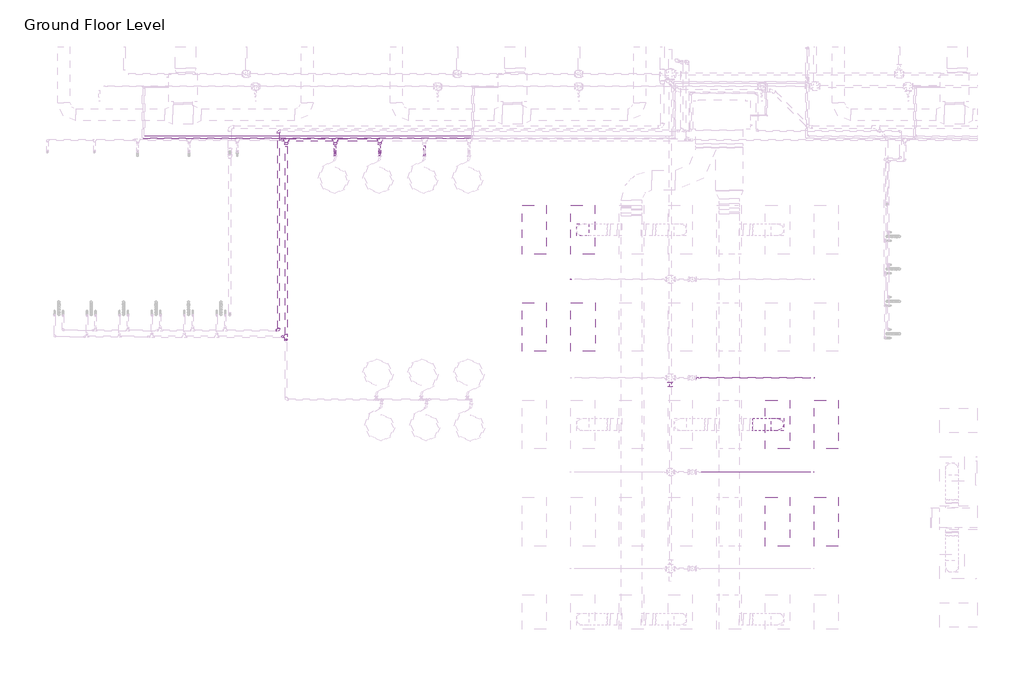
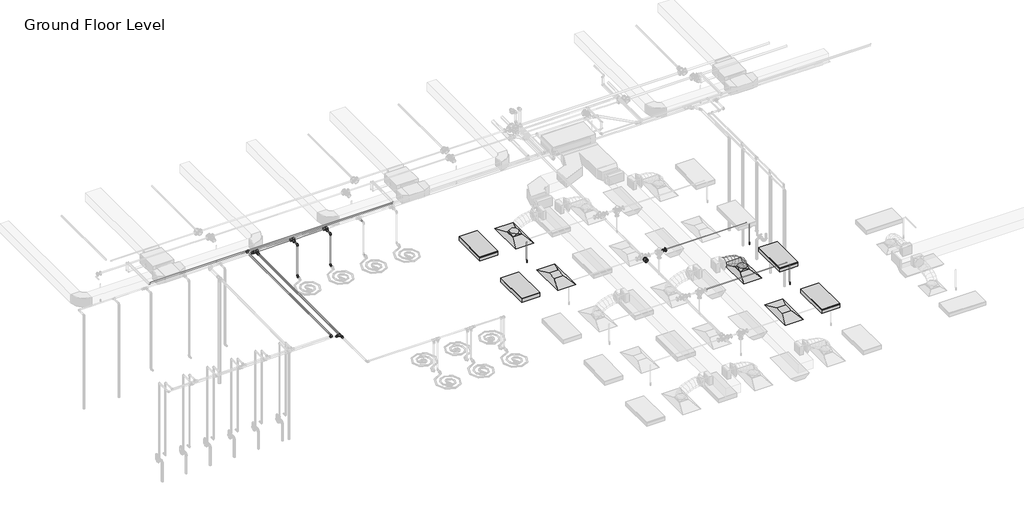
# One storey, part 48 of 75: 19 pipe segments, 18 pipe fittings, 4 air terminals, 4 light fixtures, 3 fire suppression terminals, 2 duct fittings, 1 duct segment.
"""IFC4 building model written with IfcOpenShell, lengths in millimetres."""

from ifc_helpers import new_model, si_unit, point, frame, frame_2d, origin, place, context, project, spatial, circle_curve, ellipse_curve, trimmed, segment, composite_curve, outline, extrude, transform, mapped, element, save
from ifc_brep_helpers import plane_surface, cylinder_surface, advanced_brep
from components import m_return_diffuser_1200x600_1200_x_600_face_300_x_300_d1983ef6, m_rectangular_to_round_transition_angle_45_degree_641efff0, m_sprinkler_dry_pendent_hosted_15_mm_dry_pendent_9bda8e11, m_troffer_light_parabolic_rectangular1_0600x1200mm_4_lamp_86473d4a, m_reducer_flanged_cs_class_150_standard_d42b2106, m_reducer_flanged_cs_class_150_standard_564df86d, standard_517a5a8d, standard_cd25fed3, standard_f1337950, standard_5079833c, standard_92e3b147, standard_bbae78af, standard_69e4ce0e, standard_a995ec02

model = new_model("IFC4")

# Units and contexts
model_context = context("Model", 3, world=origin())
ifc_project = project(units=[si_unit("LENGTHUNIT", "METRE", prefix="MILLI")], contexts=[model_context])

# Site, building, storey
site = spatial("IfcSite", under=ifc_project)
building = spatial("IfcBuilding", under=site)
storey = spatial("IfcBuildingStorey", under=building, Name="Ground Floor Level", Elevation=900.0)

# Air terminals
placement = place(None, origin())
m_return_diffuser_1200x600_1200_x_600_face_300_x_300_shape = m_return_diffuser_1200x600_1200_x_600_face_300_x_300_d1983ef6(model_context)
element("IfcAirTerminal", 1, ObjectType="M_Return Diffuser 1200x600 : 1200 x 600 Face 300 x 300 Connection", at=placement, inside=storey, context=model_context, shape_type="MappedRepresentation", body=[
    mapped(m_return_diffuser_1200x600_1200_x_600_face_300_x_300_shape, transform((-8137.2327605, 8835.2153534, 3650.0), x_axis=(0.0, 1.0, 0.0), y_axis=(-1.0, 0.0, 0.0), z_axis=(0.0, 0.0, 1.0))),
])
element("IfcAirTerminal", 2, ObjectType="M_Return Diffuser 1200x600 : 1200 x 600 Face 300 x 300 Connection", at=placement, inside=storey, context=model_context, shape_type="MappedRepresentation", body=[
    mapped(m_return_diffuser_1200x600_1200_x_600_face_300_x_300_shape, transform((-3337.2327605, 4035.2153534, 3650.0), x_axis=(0.0, 1.0, 0.0), y_axis=(-1.0, 0.0, 0.0), z_axis=(0.0, 0.0, 1.0))),
])
element("IfcAirTerminal", 3, ObjectType="M_Supply Diffuser 1200x600 : 1200 x 600 Face 300 x 300 Connection", at=placement, inside=storey, context=model_context, shape_type="MappedRepresentation", body=[
    mapped(m_return_diffuser_1200x600_1200_x_600_face_300_x_300_shape, transform((-8142.6846929, 11235.2153534, 3650.0), x_axis=(0.0, 1.0, 0.0), y_axis=(-1.0, 0.0, 0.0), z_axis=(0.0, 0.0, 1.0))),
])
element("IfcAirTerminal", 4, ObjectType="M_Supply Diffuser 1200x600 : 1200 x 600 Face 300 x 300 Connection", at=placement, inside=storey, context=model_context, shape_type="MappedRepresentation", body=[
    mapped(m_return_diffuser_1200x600_1200_x_600_face_300_x_300_shape, transform((-3337.2327605, 6435.2153534, 3650.0), x_axis=(0.0, 1.0, 0.0), y_axis=(-1.0, 0.0, 0.0), z_axis=(0.0, 0.0, 1.0))),
])

# Duct fittings
m_rectangular_to_round_transition_angle_45_degree_shape = m_rectangular_to_round_transition_angle_45_degree_641efff0(model_context)
element("IfcDuctFitting", 5, ObjectType="M_Rectangular to Round Transition - Angle : 45 Degree", at=placement, inside=storey, context=model_context, shape_type="MappedRepresentation", body=[
    mapped(m_rectangular_to_round_transition_angle_45_degree_shape, transform((-8142.6846929, 11235.2153534, 3751.6), x_axis=(0.0, 0.0, 1.0), y_axis=(-1.0, 0.0, 0.0), z_axis=(0.0, -1.0, 0.0))),
])
element("IfcDuctFitting", 6, ObjectType="M_Rectangular to Round Transition - Angle : 45 Degree", at=placement, inside=storey, context=model_context, shape_type="MappedRepresentation", body=[
    mapped(m_rectangular_to_round_transition_angle_45_degree_shape, transform((-3337.2327605, 6435.2153534, 3751.6), x_axis=(0.0, 0.0, 1.0), y_axis=(-1.0, 0.0, 0.0), z_axis=(0.0, -1.0, 0.0))),
])

# Duct segment
element("IfcDuctSegment", 7, ObjectType="Flex - Round", at=placement, inside=storey, context=model_context, shape_type="AdvancedBrep", body=[
    advanced_brep(
    [(-3187.2327605, 6435.2153534, 3826.6), (-3337.2327605, 6285.2153534, 3826.6), (-3487.2327605, 6435.2153534, 3826.6), (-3337.2327605, 6585.2153534, 3826.6), (-3187.2327605, 6435.2153534, 3882.1255581), (-3337.2327605, 6285.2153534, 3857.3046173), (-3487.2327605, 6435.2153534, 3832.4836764), (-3337.2327605, 6585.2153534, 3857.3046173), (-3218.4253034, 6435.2153534, 3973.7974983), (-3353.8937102, 6285.2153534, 3906.2695763), (-3489.362117, 6435.2153534, 3838.7416543), (-3353.8937102, 6585.2153534, 3906.2695763), (-3288.1573657, 6435.2153534, 4076.409352), (-3399.7704918, 6285.2153534, 3973.7779999), (-3511.3836179, 6435.2153534, 3871.1466478), (-3399.7704918, 6585.2153534, 3973.7779999), (-3386.082926, 6435.2153534, 4155.7082221), (-3468.7040039, 6285.2153534, 4029.599479), (-3551.3250817, 6435.2153534, 3903.4907359), (-3468.7040039, 6585.2153534, 4029.599479), (-3494.825089, 6435.2153534, 4212.2244369), (-3554.535145, 6285.2153534, 4074.2082221), (-3614.2452011, 6435.2153534, 3936.1920073), (-3554.535145, 6585.2153534, 4074.2082221), (-3609.1145825, 6435.2153534, 4252.3095878), (-3651.104814, 6285.2153534, 4108.0784374), (-3693.0950455, 6435.2153534, 3963.847287), (-3651.104814, 6585.2153534, 4108.0784374), (-3724.8435514, 6435.2153534, 4279.3180942), (-3752.2539093, 6285.2153534, 4131.6843333), (-3779.6642673, 6435.2153534, 3984.0505724), (-3752.2539093, 6585.2153534, 4131.6843333), (-3837.5009499, 6435.2153534, 4294.9499053), (-3851.8233297, 6285.2153534, 4145.500118), (-3866.1457095, 6435.2153534, 3996.0503308), (-3851.8233297, 6585.2153534, 4145.500118), (-3932.3208261, 6435.2153534, 4300.0), (-3936.312488, 6285.2153534, 4150.0), (-3940.3041499, 6435.2153534, 4000.0), (-3936.312488, 6585.2153534, 4150.0), (-3943.6539738, 6435.2153534, 4300.0), (-3943.6539738, 6585.2153534, 4150.0), (-3943.6539738, 6435.2153534, 4000.0), (-3943.6539738, 6285.2153534, 4150.0)],
    [
        (0, 1, circle_curve(frame((-3337.2327605, 6435.2153534, 3826.6), z_axis=(0.0, 0.0, -1.0), x_axis=(1.0, 0.0, 0.0)), 150.0)),
        (1, 2, circle_curve(frame((-3337.2327605, 6435.2153534, 3826.6), z_axis=(0.0, 0.0, -1.0), x_axis=(1.0, 0.0, 0.0)), 150.0)),
        (2, 3, circle_curve(frame((-3337.2327605, 6435.2153534, 3826.6), z_axis=(0.0, 0.0, -1.0), x_axis=(1.0, 0.0, 0.0)), 150.0)),
        (3, 0, circle_curve(frame((-3337.2327605, 6435.2153534, 3826.6), z_axis=(0.0, 0.0, -1.0), x_axis=(1.0, 0.0, 0.0)), 150.0)),
        (0, 4),
        (4, 5, ellipse_curve(frame((-3337.2327605, 6435.2153534, 3857.3046173), z_axis=(0.16325299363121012, 0.0, -0.9865842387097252), x_axis=(-0.9865842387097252, 0.0, -0.16325299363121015)), 152.0397287, 150.0)),
        (5, 1),
        (5, 6, ellipse_curve(frame((-3337.2327605, 6435.2153534, 3857.3046173), z_axis=(0.16325299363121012, 0.0, -0.9865842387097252), x_axis=(-0.9865842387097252, 0.0, -0.16325299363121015)), 152.0397287, 150.0)),
        (6, 2),
        (6, 7, ellipse_curve(frame((-3337.2327605, 6435.2153534, 3857.3046173), z_axis=(0.16325299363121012, 0.0, -0.9865842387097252), x_axis=(-0.9865842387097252, 0.0, -0.16325299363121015)), 152.0397287, 150.0)),
        (7, 3),
        (7, 4, ellipse_curve(frame((-3337.2327605, 6435.2153534, 3857.3046173), z_axis=(0.16325299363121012, 0.0, -0.9865842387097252), x_axis=(-0.9865842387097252, 0.0, -0.16325299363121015)), 152.0397287, 150.0)),
        (4, 8),
        (8, 9, ellipse_curve(frame((-3353.8937102, 6435.2153534, 3906.2695763), z_axis=(0.446123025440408, 0.0, -0.894971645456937), x_axis=(-0.8949716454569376, 0.0, -0.44612302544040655)), 151.3661438, 150.0)),
        (9, 5),
        (9, 10, ellipse_curve(frame((-3353.8937102, 6435.2153534, 3906.2695763), z_axis=(0.446123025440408, 0.0, -0.894971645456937), x_axis=(-0.8949716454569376, 0.0, -0.44612302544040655)), 151.3661438, 150.0)),
        (10, 6),
        (10, 11, ellipse_curve(frame((-3353.8937102, 6435.2153534, 3906.2695763), z_axis=(0.446123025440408, 0.0, -0.894971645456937), x_axis=(-0.8949716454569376, 0.0, -0.44612302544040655)), 151.3661438, 150.0)),
        (11, 7),
        (11, 8, ellipse_curve(frame((-3353.8937102, 6435.2153534, 3906.2695763), z_axis=(0.446123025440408, 0.0, -0.894971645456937), x_axis=(-0.8949716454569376, 0.0, -0.44612302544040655)), 151.3661438, 150.0)),
        (8, 12),
        (12, 13, ellipse_curve(frame((-3399.7704918, 6435.2153534, 3973.7779999), z_axis=(0.6768681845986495, 0.0, -0.7361042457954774), x_axis=(-0.7361042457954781, 0.0, -0.6768681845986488)), 151.626793, 150.0)),
        (13, 9),
        (13, 14, ellipse_curve(frame((-3399.7704918, 6435.2153534, 3973.7779999), z_axis=(0.6768681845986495, 0.0, -0.7361042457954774), x_axis=(-0.7361042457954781, 0.0, -0.6768681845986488)), 151.626793, 150.0)),
        (14, 10),
        (14, 15, ellipse_curve(frame((-3399.7704918, 6435.2153534, 3973.7779999), z_axis=(0.6768681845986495, 0.0, -0.7361042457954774), x_axis=(-0.7361042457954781, 0.0, -0.6768681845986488)), 151.626793, 150.0)),
        (15, 11),
        (15, 12, ellipse_curve(frame((-3399.7704918, 6435.2153534, 3973.7779999), z_axis=(0.6768681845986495, 0.0, -0.7361042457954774), x_axis=(-0.7361042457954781, 0.0, -0.6768681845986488)), 151.626793, 150.0)),
        (12, 16),
        (16, 17, ellipse_curve(frame((-3468.7040039, 6435.2153534, 4029.599479), z_axis=(0.8364668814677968, 0.0, -0.5480174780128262), x_axis=(-0.5480174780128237, 0.0, -0.8364668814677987)), 150.7635818, 150.0)),
        (17, 13),
        (17, 18, ellipse_curve(frame((-3468.7040039, 6435.2153534, 4029.599479), z_axis=(0.8364668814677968, 0.0, -0.5480174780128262), x_axis=(-0.5480174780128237, 0.0, -0.8364668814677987)), 150.7635818, 150.0)),
        (18, 14),
        (18, 19, ellipse_curve(frame((-3468.7040039, 6435.2153534, 4029.599479), z_axis=(0.8364668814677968, 0.0, -0.5480174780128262), x_axis=(-0.5480174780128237, 0.0, -0.8364668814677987)), 150.7635818, 150.0)),
        (19, 15),
        (19, 16, ellipse_curve(frame((-3468.7040039, 6435.2153534, 4029.599479), z_axis=(0.8364668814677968, 0.0, -0.5480174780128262), x_axis=(-0.5480174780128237, 0.0, -0.8364668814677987)), 150.7635818, 150.0)),
        (16, 20),
        (20, 21, ellipse_curve(frame((-3554.535145, 6435.2153534, 4074.2082221), z_axis=(0.9177907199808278, 0.0, -0.3970644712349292), x_axis=(-0.3970644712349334, 0.0, -0.917790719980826)), 150.378743, 150.0)),
        (21, 17),
        (21, 22, ellipse_curve(frame((-3554.535145, 6435.2153534, 4074.2082221), z_axis=(0.9177907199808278, 0.0, -0.3970644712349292), x_axis=(-0.3970644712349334, 0.0, -0.917790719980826)), 150.378743, 150.0)),
        (22, 18),
        (22, 23, ellipse_curve(frame((-3554.535145, 6435.2153534, 4074.2082221), z_axis=(0.9177907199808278, 0.0, -0.3970644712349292), x_axis=(-0.3970644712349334, 0.0, -0.917790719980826)), 150.378743, 150.0)),
        (23, 19),
        (23, 20, ellipse_curve(frame((-3554.535145, 6435.2153534, 4074.2082221), z_axis=(0.9177907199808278, 0.0, -0.3970644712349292), x_axis=(-0.3970644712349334, 0.0, -0.917790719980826)), 150.378743, 150.0)),
        (20, 24),
        (24, 25, ellipse_curve(frame((-3651.104814, 6435.2153534, 4108.0784374), z_axis=(0.9601380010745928, 0.0, -0.2795264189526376), x_axis=(-0.2795264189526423, 0.0, -0.9601380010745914)), 150.2191875, 150.0)),
        (25, 21),
        (25, 26, ellipse_curve(frame((-3651.104814, 6435.2153534, 4108.0784374), z_axis=(0.9601380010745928, 0.0, -0.2795264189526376), x_axis=(-0.2795264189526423, 0.0, -0.9601380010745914)), 150.2191875, 150.0)),
        (26, 22),
        (26, 27, ellipse_curve(frame((-3651.104814, 6435.2153534, 4108.0784374), z_axis=(0.9601380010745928, 0.0, -0.2795264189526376), x_axis=(-0.2795264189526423, 0.0, -0.9601380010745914)), 150.2191875, 150.0)),
        (27, 23),
        (27, 24, ellipse_curve(frame((-3651.104814, 6435.2153534, 4108.0784374), z_axis=(0.9601380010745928, 0.0, -0.2795264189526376), x_axis=(-0.2795264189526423, 0.0, -0.9601380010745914)), 150.2191875, 150.0)),
        (24, 28),
        (28, 29, ellipse_curve(frame((-3752.2539093, 6435.2153534, 4131.6843333), z_axis=(0.9831975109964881, 0.0, -0.18254493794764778), x_axis=(-0.18254493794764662, 0.0, -0.9831975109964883)), 150.1567684, 150.0)),
        (29, 25),
        (29, 30, ellipse_curve(frame((-3752.2539093, 6435.2153534, 4131.6843333), z_axis=(0.9831975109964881, 0.0, -0.18254493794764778), x_axis=(-0.18254493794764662, 0.0, -0.9831975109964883)), 150.1567684, 150.0)),
        (30, 26),
        (30, 31, ellipse_curve(frame((-3752.2539093, 6435.2153534, 4131.6843333), z_axis=(0.9831975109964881, 0.0, -0.18254493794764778), x_axis=(-0.18254493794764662, 0.0, -0.9831975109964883)), 150.1567684, 150.0)),
        (31, 27),
        (31, 28, ellipse_curve(frame((-3752.2539093, 6435.2153534, 4131.6843333), z_axis=(0.9831975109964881, 0.0, -0.18254493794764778), x_axis=(-0.18254493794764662, 0.0, -0.9831975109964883)), 150.1567684, 150.0)),
        (28, 32),
        (32, 33, ellipse_curve(frame((-3851.8233297, 6435.2153534, 4145.500118), z_axis=(0.9954393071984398, 0.0, -0.09539698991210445), x_axis=(-0.09539698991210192, 0.0, -0.99543930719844)), 150.1345046, 150.0)),
        (33, 29),
        (33, 34, ellipse_curve(frame((-3851.8233297, 6435.2153534, 4145.500118), z_axis=(0.9954393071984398, 0.0, -0.09539698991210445), x_axis=(-0.09539698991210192, 0.0, -0.99543930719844)), 150.1345046, 150.0)),
        (34, 30),
        (34, 35, ellipse_curve(frame((-3851.8233297, 6435.2153534, 4145.500118), z_axis=(0.9954393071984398, 0.0, -0.09539698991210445), x_axis=(-0.09539698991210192, 0.0, -0.99543930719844)), 150.1345046, 150.0)),
        (35, 31),
        (35, 32, ellipse_curve(frame((-3851.8233297, 6435.2153534, 4145.500118), z_axis=(0.9954393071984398, 0.0, -0.09539698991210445), x_axis=(-0.09539698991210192, 0.0, -0.99543930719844)), 150.1345046, 150.0)),
        (32, 36),
        (36, 37, ellipse_curve(frame((-3936.312488, 6435.2153534, 4150.0), z_axis=(0.9996461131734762, 0.0, -0.02660166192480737), x_axis=(-0.026601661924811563, 0.0, -0.9996461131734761)), 150.0531018, 150.0)),
        (37, 33),
        (37, 38, ellipse_curve(frame((-3936.312488, 6435.2153534, 4150.0), z_axis=(0.9996461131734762, 0.0, -0.02660166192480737), x_axis=(-0.026601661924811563, 0.0, -0.9996461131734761)), 150.0531018, 150.0)),
        (38, 34),
        (38, 39, ellipse_curve(frame((-3936.312488, 6435.2153534, 4150.0), z_axis=(0.9996461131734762, 0.0, -0.02660166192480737), x_axis=(-0.026601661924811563, 0.0, -0.9996461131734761)), 150.0531018, 150.0)),
        (39, 35),
        (39, 36, ellipse_curve(frame((-3936.312488, 6435.2153534, 4150.0), z_axis=(0.9996461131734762, 0.0, -0.02660166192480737), x_axis=(-0.026601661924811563, 0.0, -0.9996461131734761)), 150.0531018, 150.0)),
        (40, 41, circle_curve(frame((-3943.6539738, 6435.2153534, 4150.0), z_axis=(-1.0, 0.0, 0.0), x_axis=(0.0, 0.0, 1.0)), 150.0)),
        (41, 42, circle_curve(frame((-3943.6539738, 6435.2153534, 4150.0), z_axis=(-1.0, 0.0, 0.0), x_axis=(0.0, 0.0, 1.0)), 150.0)),
        (42, 43, circle_curve(frame((-3943.6539738, 6435.2153534, 4150.0), z_axis=(-1.0, 0.0, 0.0), x_axis=(0.0, 0.0, 1.0)), 150.0)),
        (43, 40, circle_curve(frame((-3943.6539738, 6435.2153534, 4150.0), z_axis=(-1.0, 0.0, 0.0), x_axis=(0.0, 0.0, 1.0)), 150.0)),
        (36, 40),
        (43, 37),
        (42, 38),
        (41, 39),
    ],
    [
        plane_surface(frame((-3337.2327605, 6285.2153534, 3826.6), z_axis=(0.0, 0.0, -1.0), x_axis=(1.0, 0.0, 0.0))),
        cylinder_surface(frame((-3337.2327605, 6435.2153534, 3826.6), z_axis=(0.0, 0.0, -1.0), x_axis=(1.0, 0.0, 0.0)), 150.0),
        cylinder_surface(frame((-3337.2327605, 6435.2153534, 3857.3046173), z_axis=(0.3221256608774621, 0.0, -0.9466969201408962), x_axis=(0.9466969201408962, 0.0, 0.3221256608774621)), 150.0),
        cylinder_surface(frame((-3353.8937102, 6435.2153534, 3906.2695763), z_axis=(0.5620674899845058, 0.0, -0.8270913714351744), x_axis=(0.8270913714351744, 0.0, 0.5620674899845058)), 150.0),
        cylinder_surface(frame((-3399.7704918, 6435.2153534, 3973.7779999), z_axis=(0.7771447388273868, 0.0, -0.6293219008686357), x_axis=(0.6293219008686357, 0.0, 0.7771447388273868)), 150.0),
        cylinder_surface(frame((-3468.7040039, 6435.2153534, 4029.599479), z_axis=(0.8873160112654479, 0.0, -0.4611618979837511), x_axis=(0.4611618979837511, 0.0, 0.8873160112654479)), 150.0),
        cylinder_surface(frame((-3554.535145, 6435.2153534, 4074.2082221), z_axis=(0.9436423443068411, 0.0, -0.3309669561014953), x_axis=(0.3309669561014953, 0.0, 0.9436423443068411)), 150.0),
        cylinder_surface(frame((-3651.104814, 6435.2153534, 4108.0784374), z_axis=(0.973831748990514, 0.0, -0.22727015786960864), x_axis=(0.22727015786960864, 0.0, 0.973831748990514)), 150.0),
        cylinder_surface(frame((-3752.2539093, 6435.2153534, 4131.6843333), z_axis=(0.9905102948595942, 0.0, -0.1374385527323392), x_axis=(0.1374385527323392, 0.0, 0.9905102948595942)), 150.0),
        cylinder_surface(frame((-3851.8233297, 6435.2153534, 4145.500118), z_axis=(0.9985847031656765, 0.0, -0.05318449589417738), x_axis=(0.05318449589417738, 0.0, 0.9985847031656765)), 150.0),
        plane_surface(frame((-3943.6539738, 6435.2153534, 4000.0), z_axis=(-1.0, 0.0, 0.0), x_axis=(0.0, -1.0, 0.0))),
        cylinder_surface(frame((-3936.312488, 6435.2153534, 4150.0), z_axis=(1.0, 0.0, 0.0), x_axis=(0.0, 0.0, 1.0)), 150.0),
    ],
    [
        (0, [[1, 2, 3, 4]]),
        (1, [[-1, 5, 6, 7]]),
        (1, [[-2, -7, 8, 9]]),
        (1, [[-3, -9, 10, 11]]),
        (1, [[-4, -11, 12, -5]]),
        (2, [[-6, 13, 14, 15]]),
        (2, [[-8, -15, 16, 17]]),
        (2, [[-10, -17, 18, 19]]),
        (2, [[-12, -19, 20, -13]]),
        (3, [[-14, 21, 22, 23]]),
        (3, [[-16, -23, 24, 25]]),
        (3, [[-18, -25, 26, 27]]),
        (3, [[-20, -27, 28, -21]]),
        (4, [[-22, 29, 30, 31]]),
        (4, [[-24, -31, 32, 33]]),
        (4, [[-26, -33, 34, 35]]),
        (4, [[-28, -35, 36, -29]]),
        (5, [[-30, 37, 38, 39]]),
        (5, [[-32, -39, 40, 41]]),
        (5, [[-34, -41, 42, 43]]),
        (5, [[-36, -43, 44, -37]]),
        (6, [[-38, 45, 46, 47]]),
        (6, [[-40, -47, 48, 49]]),
        (6, [[-42, -49, 50, 51]]),
        (6, [[-44, -51, 52, -45]]),
        (7, [[-46, 53, 54, 55]]),
        (7, [[-48, -55, 56, 57]]),
        (7, [[-50, -57, 58, 59]]),
        (7, [[-52, -59, 60, -53]]),
        (8, [[-54, 61, 62, 63]]),
        (8, [[-56, -63, 64, 65]]),
        (8, [[-58, -65, 66, 67]]),
        (8, [[-60, -67, 68, -61]]),
        (9, [[-62, 69, 70, 71]]),
        (9, [[-64, -71, 72, 73]]),
        (9, [[-66, -73, 74, 75]]),
        (9, [[-68, -75, 76, -69]]),
        (10, [[77, 78, 79, 80]]),
        (11, [[-70, 81, -80, 82]]),
        (11, [[-72, -82, -79, 83]]),
        (11, [[-74, -83, -78, 84]]),
        (11, [[-76, -84, -77, -81]]),
    ],
),
])

# Fire suppression terminals
m_sprinkler_dry_pendent_hosted_15_mm_dry_pendent_shape = m_sprinkler_dry_pendent_hosted_15_mm_dry_pendent_9bda8e11(model_context)
element("IfcFireSuppressionTerminal", 8, ObjectType="M_Sprinkler - Dry - Pendent - Hosted : 15 mm Dry Pendent", at=placement, inside=storey, context=model_context, shape_type="MappedRepresentation", body=[
    mapped(m_sprinkler_dry_pendent_hosted_15_mm_dry_pendent_shape, transform((-8437.2327605, 10013.008259, 3650.0), x_axis=(1.0, 0.0, 0.0), y_axis=(0.0, -1.0, 0.0), z_axis=(0.0, 0.0, -1.0))),
])
element("IfcFireSuppressionTerminal", 9, ObjectType="M_Sprinkler - Dry - Pendent - Hosted : 15 mm Dry Pendent", at=placement, inside=storey, context=model_context, shape_type="MappedRepresentation", body=[
    mapped(m_sprinkler_dry_pendent_hosted_15_mm_dry_pendent_shape, transform((-2437.2327605, 7582.7040742, 3650.0), x_axis=(1.0, 0.0, 0.0), y_axis=(0.0, -1.0, 0.0), z_axis=(0.0, 0.0, -1.0))),
])
element("IfcFireSuppressionTerminal", 10, ObjectType="M_Sprinkler - Dry - Pendent - Hosted : 15 mm Dry Pendent", at=placement, inside=storey, context=model_context, shape_type="MappedRepresentation", body=[
    mapped(m_sprinkler_dry_pendent_hosted_15_mm_dry_pendent_shape, transform((-2437.2327605, 5261.0372753, 3650.0), x_axis=(1.0, 0.0, 0.0), y_axis=(0.0, -1.0, 0.0), z_axis=(0.0, 0.0, -1.0))),
])

# Light fixtures
m_troffer_light_parabolic_rectangular1_0600x1200mm_4_lamp_shape = m_troffer_light_parabolic_rectangular1_0600x1200mm_4_lamp_86473d4a(model_context)
element("IfcLightFixture", 11, ObjectType="M_Troffer Light - Parabolic Rectangular1 : 0600x1200mm(4 Lamp) - 277V 2", at=placement, inside=storey, context=model_context, shape_type="MappedRepresentation", body=[
    mapped(m_troffer_light_parabolic_rectangular1_0600x1200mm_4_lamp_shape, transform((-9396.6986926, 11253.918855, 3650.0), x_axis=(0.0, 1.0, 0.0), y_axis=(-1.0, 0.0, 0.0), z_axis=(0.0, 0.0, 1.0))),
])
element("IfcLightFixture", 12, ObjectType="M_Troffer Light - Parabolic Rectangular1 : 0600x1200mm(4 Lamp) - 277V 2", at=placement, inside=storey, context=model_context, shape_type="MappedRepresentation", body=[
    mapped(m_troffer_light_parabolic_rectangular1_0600x1200mm_4_lamp_shape, transform((-9396.6986926, 8853.918855, 3650.0), x_axis=(0.0, 1.0, 0.0), y_axis=(-1.0, 0.0, 0.0), z_axis=(0.0, 0.0, 1.0))),
])
element("IfcLightFixture", 13, ObjectType="M_Troffer Light - Parabolic Rectangular1 : 0600x1200mm(4 Lamp) - 277V 2", at=placement, inside=storey, context=model_context, shape_type="MappedRepresentation", body=[
    mapped(m_troffer_light_parabolic_rectangular1_0600x1200mm_4_lamp_shape, transform((-2196.6986926, 6453.918855, 3650.0), x_axis=(0.0, 1.0, 0.0), y_axis=(-1.0, 0.0, 0.0), z_axis=(0.0, 0.0, 1.0))),
])
element("IfcLightFixture", 14, ObjectType="M_Troffer Light - Parabolic Rectangular1 : 0600x1200mm(4 Lamp) - 277V 2", at=placement, inside=storey, context=model_context, shape_type="MappedRepresentation", body=[
    mapped(m_troffer_light_parabolic_rectangular1_0600x1200mm_4_lamp_shape, transform((-2196.6986926, 4053.918855, 3650.0), x_axis=(0.0, 1.0, 0.0), y_axis=(-1.0, 0.0, 0.0), z_axis=(0.0, 0.0, 1.0))),
])

# Pipe fittings
m_reducer_flanged_cs_class_150_standard_shape = m_reducer_flanged_cs_class_150_standard_d42b2106(model_context)
element("IfcPipeFitting", 15, ObjectType="M_Reducer - Flanged - CS - Class 150 : Standard", at=placement, inside=storey, context=model_context, shape_type="MappedRepresentation", body=[
    mapped(m_reducer_flanged_cs_class_150_standard_shape, transform((-5336.5241668, 7582.7040742, 4360.0), x_axis=(1.0, 0.0, 0.0), y_axis=(0.0, 1.0, 0.0), z_axis=(0.0, 0.0, 1.0))),
])
m_reducer_flanged_cs_class_150_standard_2_shape = m_reducer_flanged_cs_class_150_standard_564df86d(model_context)
element("IfcPipeFitting", 16, ObjectType="M_Reducer - Flanged - CS - Class 150 : Standard", at=placement, inside=storey, context=model_context, shape_type="MappedRepresentation", body=[
    mapped(m_reducer_flanged_cs_class_150_standard_2_shape, transform((-5978.130502, 7480.7040742, 4360.0), x_axis=(0.0, -1.0, 0.0), y_axis=(1.0, 0.0, 0.0), z_axis=(0.0, 0.0, 1.0))),
])
standard_shape = standard_517a5a8d(model_context)
element("IfcPipeFitting", 17, ObjectType="M_Elbow - CPVC - Sch 40 : Standard", at=placement, inside=storey, context=model_context, shape_type="MappedRepresentation", body=[
    mapped(standard_shape, transform((-14247.2327605, 13150.8347997, 3200.0), x_axis=(0.0, 1.0, 0.0), y_axis=(0.0, 0.0, 1.0), z_axis=(1.0, 0.0, 0.0))),
])
element("IfcPipeFitting", 18, ObjectType="M_Elbow - CPVC - Sch 40 : Standard", at=placement, inside=storey, context=model_context, shape_type="MappedRepresentation", body=[
    mapped(standard_shape, transform((-14247.2327605, 13150.8347997, 4315.0), x_axis=(0.0, 0.0, 1.0), y_axis=(0.0, 1.0, 0.0), z_axis=(-1.0, 0.0, 0.0))),
])
element("IfcPipeFitting", 19, ObjectType="M_Elbow - CPVC - Sch 40 : Standard", at=placement, inside=storey, context=model_context, shape_type="MappedRepresentation", body=[
    mapped(standard_shape, transform((-13147.2327605, 13150.8347997, 4315.0), x_axis=(0.0, 0.0, 1.0), y_axis=(0.0, 1.0, 0.0), z_axis=(-1.0, 0.0, 0.0))),
])
element("IfcPipeFitting", 20, ObjectType="M_Elbow - CPVC - Sch 40 : Standard", at=placement, inside=storey, context=model_context, shape_type="MappedRepresentation", body=[
    mapped(standard_shape, transform((-13147.2327605, 13150.8347997, 3200.0), x_axis=(0.0, 0.0, -1.0), y_axis=(0.0, -1.0, 0.0), z_axis=(-1.0, 0.0, 0.0))),
])
standard_2_shape = standard_cd25fed3(model_context)
element("IfcPipeFitting", 21, ObjectType="M_Tee - CPVC - Sch 40 : Standard", at=placement, inside=storey, context=model_context, shape_type="MappedRepresentation", body=[
    mapped(standard_2_shape, transform((-14247.2327605, 13449.9865561, 4315.0), x_axis=(-1.0, 0.0, 0.0), y_axis=(0.0, 1.0, 0.0), z_axis=(0.0, 0.0, -1.0))),
])
element("IfcPipeFitting", 22, ObjectType="M_Tee - CPVC - Sch 40 : Standard", at=placement, inside=storey, context=model_context, shape_type="MappedRepresentation", body=[
    mapped(standard_2_shape, transform((-13147.2327605, 13449.9865561, 4315.0), x_axis=(-1.0, 0.0, 0.0), y_axis=(0.0, 1.0, 0.0), z_axis=(0.0, 0.0, -1.0))),
])
element("IfcPipeFitting", 23, ObjectType="M_Tee - CPVC - Sch 40 : Standard", at=placement, inside=storey, context=model_context, shape_type="MappedRepresentation", body=[
    mapped(standard_2_shape, transform((-15455.6408298, 13449.9865561, 4315.0), x_axis=(-1.0, 0.0, 0.0), y_axis=(0.0, 1.0, 0.0), z_axis=(0.0, 0.0, -1.0))),
])
standard_3_shape = standard_f1337950(model_context)
element("IfcPipeFitting", 24, ObjectType="M_Coupling Reducing - CPVC - Sch 40 : Standard", at=placement, inside=storey, context=model_context, shape_type="MappedRepresentation", body=[
    mapped(standard_3_shape, transform((-14247.2327605, 13383.3115561, 4315.0), x_axis=(0.0, -1.0, 0.0), y_axis=(1.0, 0.0, 0.0), z_axis=(0.0, 0.0, 1.0))),
])
element("IfcPipeFitting", 25, ObjectType="M_Coupling Reducing - CPVC - Sch 40 : Standard", at=placement, inside=storey, context=model_context, shape_type="MappedRepresentation", body=[
    mapped(standard_3_shape, transform((-13147.2327605, 13383.3115561, 4315.0), x_axis=(0.0, -1.0, 0.0), y_axis=(1.0, 0.0, 0.0), z_axis=(0.0, 0.0, 1.0))),
])
standard_4_shape = standard_5079833c(model_context)
element("IfcPipeFitting", 26, ObjectType="M_Coupling Reducing - CPVC - Sch 40 : Standard", at=placement, inside=storey, context=model_context, shape_type="MappedRepresentation", body=[
    mapped(standard_4_shape, transform((-15522.3158298, 13449.9865561, 4315.0), x_axis=(-1.0, 0.0, 0.0), y_axis=(0.0, -1.0, 0.0), z_axis=(0.0, 0.0, 1.0))),
])
standard_5_shape = standard_92e3b147(model_context)
element("IfcPipeFitting", 27, ObjectType="M_Coupling Reducing - CPVC - Sch 40 : Standard", at=placement, inside=storey, context=model_context, shape_type="MappedRepresentation", body=[
    mapped(standard_5_shape, transform((-15455.6408298, 13383.3115561, 4315.0), x_axis=(0.0, -1.0, 0.0), y_axis=(1.0, 0.0, 0.0), z_axis=(0.0, 0.0, 1.0))),
])
standard_6_shape = standard_bbae78af(model_context)
element("IfcPipeFitting", 28, ObjectType="M_Tee - CPVC - Sch 40 : Standard", at=placement, inside=storey, context=model_context, shape_type="MappedRepresentation", body=[
    mapped(standard_6_shape, transform((-15455.6408298, 8599.9071734, 4315.0), x_axis=(0.0, 1.0, 0.0), y_axis=(1.0, 0.0, 0.0), z_axis=(0.0, 0.0, -1.0))),
])
standard_7_shape = standard_69e4ce0e(model_context)
element("IfcPipeFitting", 29, ObjectType="M_Elbow - CPVC - Sch 40 : Standard", at=placement, inside=storey, context=model_context, shape_type="MappedRepresentation", body=[
    mapped(standard_7_shape, transform((-15642.8173674, 8755.2153534, 4250.0), x_axis=(1.0, 0.0, 0.0), y_axis=(0.0, 1.0, 0.0), z_axis=(0.0, 0.0, 1.0))),
])
element("IfcPipeFitting", 30, ObjectType="M_Elbow - CPVC - Sch 40 : Standard", at=placement, inside=storey, context=model_context, shape_type="MappedRepresentation", body=[
    mapped(standard_7_shape, transform((-15642.8173674, 13675.2153534, 4250.0), x_axis=(-1.0, 0.0, 0.0), y_axis=(0.0, -1.0, 0.0), z_axis=(0.0, 0.0, 1.0))),
])
standard_8_shape = standard_a995ec02(model_context)
element("IfcPipeFitting", 31, ObjectType="M_Coupling Reducing - CPVC - Sch 40 : Standard", at=placement, inside=storey, context=model_context, shape_type="MappedRepresentation", body=[
    mapped(standard_8_shape, transform((-15455.6408298, 8541.1569734, 4315.0), x_axis=(0.0, -1.0, 0.0), y_axis=(1.0, 0.0, 0.0), z_axis=(0.0, 0.0, 1.0))),
])
element("IfcPipeFitting", 32, ObjectType="M_Coupling Reducing - CPVC - Sch 40 : Standard", at=placement, inside=storey, context=model_context, shape_type="MappedRepresentation", body=[
    mapped(standard_8_shape, transform((-15514.3910298, 8599.9071734, 4315.0), x_axis=(-1.0, 0.0, 0.0), y_axis=(0.0, -1.0, 0.0), z_axis=(0.0, 0.0, 1.0))),
])

# Pipe segments
element("IfcPipeSegment", 33, ObjectType="CPVC", at=placement, inside=storey, context=model_context, shape_type="SweptSolid", body=[
    extrude(outline(composite_curve([segment(trimmed(circle_curve(frame_2d((3200.0, -14247.2327605)), 16.7005), [point((3200.0, -14230.5322605))], [point((3216.7005, -14247.2327605))], False, "CARTESIAN"), True, "CONTINUOUS"), segment(trimmed(circle_curve(frame_2d((3200.0, -14247.2327605)), 16.7005), [point((3216.7005, -14247.2327605))], [point((3200.0, -14263.9332605))], False, "CARTESIAN"), True, "CONTINUOUS"), segment(trimmed(circle_curve(frame_2d((3200.0, -14247.2327605)), 16.7005), [point((3200.0, -14263.9332605))], [point((3183.2995, -14247.2327605))], False, "CARTESIAN"), True, "CONTINUOUS"), segment(trimmed(circle_curve(frame_2d((3200.0, -14247.2327605)), 16.7005), [point((3183.2995, -14247.2327605))], [point((3200.0, -14230.5322605))], False, "CARTESIAN"), True, "CONTINUOUS")], self_intersect=False)), frame((0.0, 13056.8347997, 0.0), z_axis=(0.0, 1.0, 0.0), x_axis=(0.0, 0.0, 1.0)), (0.0, 0.0, 1.0), 50.73745),
])
element("IfcPipeSegment", 34, ObjectType="CPVC", at=placement, inside=storey, context=model_context, shape_type="SweptSolid", body=[
    extrude(outline(composite_curve([segment(trimmed(circle_curve(frame_2d((4315.0, -14247.2327605)), 16.7005), [point((4315.0, -14230.5322605))], [point((4331.7005, -14247.2327605))], False, "CARTESIAN"), True, "CONTINUOUS"), segment(trimmed(circle_curve(frame_2d((4315.0, -14247.2327605)), 16.7005), [point((4331.7005, -14247.2327605))], [point((4315.0, -14263.9332605))], False, "CARTESIAN"), True, "CONTINUOUS"), segment(trimmed(circle_curve(frame_2d((4315.0, -14247.2327605)), 16.7005), [point((4315.0, -14263.9332605))], [point((4298.2995, -14247.2327605))], False, "CARTESIAN"), True, "CONTINUOUS"), segment(trimmed(circle_curve(frame_2d((4315.0, -14247.2327605)), 16.7005), [point((4298.2995, -14247.2327605))], [point((4315.0, -14230.5322605))], False, "CARTESIAN"), True, "CONTINUOUS")], self_intersect=False)), frame((0.0, 13194.0973497, 0.0), z_axis=(0.0, 1.0, 0.0), x_axis=(0.0, 0.0, 1.0)), (0.0, 0.0, 1.0), 109.4153315),
])
element("IfcPipeSegment", 35, ObjectType="CPVC", at=placement, inside=storey, context=model_context, shape_type="SweptSolid", body=[
    extrude(outline(composite_curve([segment(trimmed(circle_curve(frame_2d((-14247.2327605, 13150.8347997)), 16.7005), [point((-14263.9332605, 13150.8347997))], [point((-14247.2327605, 13167.5352997))], False, "CARTESIAN"), True, "CONTINUOUS"), segment(trimmed(circle_curve(frame_2d((-14247.2327605, 13150.8347997)), 16.7005), [point((-14247.2327605, 13167.5352997))], [point((-14230.5322605, 13150.8347997))], False, "CARTESIAN"), True, "CONTINUOUS"), segment(trimmed(circle_curve(frame_2d((-14247.2327605, 13150.8347997)), 16.7005), [point((-14230.5322605, 13150.8347997))], [point((-14247.2327605, 13134.1342997))], False, "CARTESIAN"), True, "CONTINUOUS"), segment(trimmed(circle_curve(frame_2d((-14247.2327605, 13150.8347997)), 16.7005), [point((-14247.2327605, 13134.1342997))], [point((-14263.9332605, 13150.8347997))], False, "CARTESIAN"), True, "CONTINUOUS")], self_intersect=False)), frame((0.0, 0.0, 3243.26255), z_axis=(0.0, 0.0, 1.0), x_axis=(1.0, 0.0, 0.0)), (0.0, 0.0, 1.0), 1028.4749),
])
element("IfcPipeSegment", 36, ObjectType="CPVC", at=placement, inside=storey, context=model_context, shape_type="SweptSolid", body=[
    extrude(outline(composite_curve([segment(trimmed(circle_curve(frame_2d((3200.0, -13147.2327605)), 16.7005), [point((3200.0, -13163.9332605))], [point((3183.2995, -13147.2327605))], False, "CARTESIAN"), True, "CONTINUOUS"), segment(trimmed(circle_curve(frame_2d((3200.0, -13147.2327605)), 16.7005), [point((3183.2995, -13147.2327605))], [point((3200.0, -13130.5322605))], False, "CARTESIAN"), True, "CONTINUOUS"), segment(trimmed(circle_curve(frame_2d((3200.0, -13147.2327605)), 16.7005), [point((3200.0, -13130.5322605))], [point((3216.7005, -13147.2327605))], False, "CARTESIAN"), True, "CONTINUOUS"), segment(trimmed(circle_curve(frame_2d((3200.0, -13147.2327605)), 16.7005), [point((3216.7005, -13147.2327605))], [point((3200.0, -13163.9332605))], False, "CARTESIAN"), True, "CONTINUOUS")], self_intersect=False)), frame((0.0, 13056.8347997, 0.0), z_axis=(0.0, 1.0, 0.0), x_axis=(0.0, 0.0, 1.0)), (0.0, 0.0, 1.0), 50.73745),
])
element("IfcPipeSegment", 37, ObjectType="CPVC", at=placement, inside=storey, context=model_context, shape_type="SweptSolid", body=[
    extrude(outline(composite_curve([segment(trimmed(circle_curve(frame_2d((4315.0, -13147.2327605)), 16.7005), [point((4315.0, -13130.5322605))], [point((4331.7005, -13147.2327605))], False, "CARTESIAN"), True, "CONTINUOUS"), segment(trimmed(circle_curve(frame_2d((4315.0, -13147.2327605)), 16.7005), [point((4331.7005, -13147.2327605))], [point((4315.0, -13163.9332605))], False, "CARTESIAN"), True, "CONTINUOUS"), segment(trimmed(circle_curve(frame_2d((4315.0, -13147.2327605)), 16.7005), [point((4315.0, -13163.9332605))], [point((4298.2995, -13147.2327605))], False, "CARTESIAN"), True, "CONTINUOUS"), segment(trimmed(circle_curve(frame_2d((4315.0, -13147.2327605)), 16.7005), [point((4298.2995, -13147.2327605))], [point((4315.0, -13130.5322605))], False, "CARTESIAN"), True, "CONTINUOUS")], self_intersect=False)), frame((0.0, 13194.0973497, 0.0), z_axis=(0.0, 1.0, 0.0), x_axis=(0.0, 0.0, 1.0)), (0.0, 0.0, 1.0), 109.4153315),
])
element("IfcPipeSegment", 38, ObjectType="CPVC", at=placement, inside=storey, context=model_context, shape_type="SweptSolid", body=[
    extrude(outline(composite_curve([segment(trimmed(circle_curve(frame_2d((-13147.2327605, 13150.8347997)), 16.7005), [point((-13163.9332605, 13150.8347997))], [point((-13147.2327605, 13167.5352997))], False, "CARTESIAN"), True, "CONTINUOUS"), segment(trimmed(circle_curve(frame_2d((-13147.2327605, 13150.8347997)), 16.7005), [point((-13147.2327605, 13167.5352997))], [point((-13130.5322605, 13150.8347997))], False, "CARTESIAN"), True, "CONTINUOUS"), segment(trimmed(circle_curve(frame_2d((-13147.2327605, 13150.8347997)), 16.7005), [point((-13130.5322605, 13150.8347997))], [point((-13147.2327605, 13134.1342997))], False, "CARTESIAN"), True, "CONTINUOUS"), segment(trimmed(circle_curve(frame_2d((-13147.2327605, 13150.8347997)), 16.7005), [point((-13147.2327605, 13134.1342997))], [point((-13163.9332605, 13150.8347997))], False, "CARTESIAN"), True, "CONTINUOUS")], self_intersect=False)), frame((0.0, 0.0, 3243.26255), z_axis=(0.0, 0.0, 1.0), x_axis=(1.0, 0.0, 0.0)), (0.0, 0.0, 1.0), 1028.4749),
])
element("IfcPipeSegment", 39, ObjectType="CPVC", at=placement, inside=storey, context=model_context, shape_type="SweptSolid", body=[
    extrude(outline(composite_curve([segment(trimmed(circle_curve(frame_2d((3200.0, -12047.2327605)), 16.7005), [point((3200.0, -12063.9332605))], [point((3183.2995, -12047.2327605))], False, "CARTESIAN"), True, "CONTINUOUS"), segment(trimmed(circle_curve(frame_2d((3200.0, -12047.2327605)), 16.7005), [point((3183.2995, -12047.2327605))], [point((3200.0, -12030.5322605))], False, "CARTESIAN"), True, "CONTINUOUS"), segment(trimmed(circle_curve(frame_2d((3200.0, -12047.2327605)), 16.7005), [point((3200.0, -12030.5322605))], [point((3216.7005, -12047.2327605))], False, "CARTESIAN"), True, "CONTINUOUS"), segment(trimmed(circle_curve(frame_2d((3200.0, -12047.2327605)), 16.7005), [point((3216.7005, -12047.2327605))], [point((3200.0, -12063.9332605))], False, "CARTESIAN"), True, "CONTINUOUS")], self_intersect=False)), frame((0.0, 13056.8347997, 0.0), z_axis=(0.0, 1.0, 0.0), x_axis=(0.0, 0.0, 1.0)), (0.0, 0.0, 1.0), 50.73745),
])
element("IfcPipeSegment", 40, ObjectType="CPVC", at=placement, inside=storey, context=model_context, shape_type="SweptSolid", body=[
    extrude(outline(composite_curve([segment(trimmed(circle_curve(frame_2d((4315.0, -12047.2327605)), 16.7005), [point((4315.0, -12030.5322605))], [point((4331.7005, -12047.2327605))], False, "CARTESIAN"), True, "CONTINUOUS"), segment(trimmed(circle_curve(frame_2d((4315.0, -12047.2327605)), 16.7005), [point((4331.7005, -12047.2327605))], [point((4315.0, -12063.9332605))], False, "CARTESIAN"), True, "CONTINUOUS"), segment(trimmed(circle_curve(frame_2d((4315.0, -12047.2327605)), 16.7005), [point((4315.0, -12063.9332605))], [point((4298.2995, -12047.2327605))], False, "CARTESIAN"), True, "CONTINUOUS"), segment(trimmed(circle_curve(frame_2d((4315.0, -12047.2327605)), 16.7005), [point((4298.2995, -12047.2327605))], [point((4315.0, -12030.5322605))], False, "CARTESIAN"), True, "CONTINUOUS")], self_intersect=False)), frame((0.0, 13194.0973497, 0.0), z_axis=(0.0, 1.0, 0.0), x_axis=(0.0, 0.0, 1.0)), (0.0, 0.0, 1.0), 109.4153315),
])
element("IfcPipeSegment", 41, ObjectType="CPVC", at=placement, inside=storey, context=model_context, shape_type="SweptSolid", body=[
    extrude(outline(composite_curve([segment(trimmed(circle_curve(frame_2d((13449.9865561, 4315.0)), 30.1625), [point((13419.8240561, 4315.0))], [point((13449.9865561, 4345.1625))], False, "CARTESIAN"), True, "CONTINUOUS"), segment(trimmed(circle_curve(frame_2d((13449.9865561, 4315.0)), 30.1625), [point((13449.9865561, 4345.1625))], [point((13480.1490561, 4315.0))], False, "CARTESIAN"), True, "CONTINUOUS"), segment(trimmed(circle_curve(frame_2d((13449.9865561, 4315.0)), 30.1625), [point((13480.1490561, 4315.0))], [point((13449.9865561, 4284.8375))], False, "CARTESIAN"), True, "CONTINUOUS"), segment(trimmed(circle_curve(frame_2d((13449.9865561, 4315.0)), 30.1625), [point((13449.9865561, 4284.8375))], [point((13419.8240561, 4315.0))], False, "CARTESIAN"), True, "CONTINUOUS")], self_intersect=False)), frame((-15388.9658298, 0.0, 0.0), z_axis=(1.0, 0.0, 0.0), x_axis=(0.0, 1.0, 0.0)), (0.0, 0.0, 1.0), 1075.0580693),
])
element("IfcPipeSegment", 42, ObjectType="CPVC", at=placement, inside=storey, context=model_context, shape_type="SweptSolid", body=[
    extrude(outline(composite_curve([segment(trimmed(circle_curve(frame_2d((13449.9865561, 4315.0)), 30.1625), [point((13419.8240561, 4315.0))], [point((13449.9865561, 4345.1625))], False, "CARTESIAN"), True, "CONTINUOUS"), segment(trimmed(circle_curve(frame_2d((13449.9865561, 4315.0)), 30.1625), [point((13449.9865561, 4345.1625))], [point((13480.1490561, 4315.0))], False, "CARTESIAN"), True, "CONTINUOUS"), segment(trimmed(circle_curve(frame_2d((13449.9865561, 4315.0)), 30.1625), [point((13480.1490561, 4315.0))], [point((13449.9865561, 4284.8375))], False, "CARTESIAN"), True, "CONTINUOUS"), segment(trimmed(circle_curve(frame_2d((13449.9865561, 4315.0)), 30.1625), [point((13449.9865561, 4284.8375))], [point((13419.8240561, 4315.0))], False, "CARTESIAN"), True, "CONTINUOUS")], self_intersect=False)), frame((-14180.5577605, 0.0, 0.0), z_axis=(1.0, 0.0, 0.0), x_axis=(0.0, 1.0, 0.0)), (0.0, 0.0, 1.0), 966.65),
])
element("IfcPipeSegment", 43, ObjectType="CPVC", at=placement, inside=storey, context=model_context, shape_type="SweptSolid", body=[
    extrude(outline(composite_curve([segment(trimmed(circle_curve(frame_2d((4315.0, -15455.6408298)), 24.13), [point((4315.0, -15479.7708298))], [point((4290.87, -15455.6408298))], False, "CARTESIAN"), True, "CONTINUOUS"), segment(trimmed(circle_curve(frame_2d((4315.0, -15455.6408298)), 24.13), [point((4290.87, -15455.6408298))], [point((4315.0, -15431.5108298))], False, "CARTESIAN"), True, "CONTINUOUS"), segment(trimmed(circle_curve(frame_2d((4315.0, -15455.6408298)), 24.13), [point((4315.0, -15431.5108298))], [point((4339.13, -15455.6408298))], False, "CARTESIAN"), True, "CONTINUOUS"), segment(trimmed(circle_curve(frame_2d((4315.0, -15455.6408298)), 24.13), [point((4339.13, -15455.6408298))], [point((4315.0, -15479.7708298))], False, "CARTESIAN"), True, "CONTINUOUS")], self_intersect=False)), frame((0.0, 8658.6573734, 0.0), z_axis=(0.0, 1.0, 0.0), x_axis=(0.0, 0.0, 1.0)), (0.0, 0.0, 1.0), 4633.2354328),
])
element("IfcPipeSegment", 44, ObjectType="CPVC", at=placement, inside=storey, context=model_context, shape_type="SweptSolid", body=[
    extrude(outline(composite_curve([segment(trimmed(circle_curve(frame_2d((4250.0, -15642.8173674)), 21.082), [point((4250.0, -15621.7353674))], [point((4271.082, -15642.8173674))], False, "CARTESIAN"), True, "CONTINUOUS"), segment(trimmed(circle_curve(frame_2d((4250.0, -15642.8173674)), 21.082), [point((4271.082, -15642.8173674))], [point((4250.0, -15663.8993674))], False, "CARTESIAN"), True, "CONTINUOUS"), segment(trimmed(circle_curve(frame_2d((4250.0, -15642.8173674)), 21.082), [point((4250.0, -15663.8993674))], [point((4228.918, -15642.8173674))], False, "CARTESIAN"), True, "CONTINUOUS"), segment(trimmed(circle_curve(frame_2d((4250.0, -15642.8173674)), 21.082), [point((4228.918, -15642.8173674))], [point((4250.0, -15621.7353674))], False, "CARTESIAN"), True, "CONTINUOUS")], self_intersect=False)), frame((0.0, 8813.1591034, 0.0), z_axis=(0.0, 1.0, 0.0), x_axis=(0.0, 0.0, 1.0)), (0.0, 0.0, 1.0), 4804.1125),
])
element("IfcPipeSegment", 45, ObjectType="Copper", at=placement, inside=storey, context=model_context, shape_type="SweptSolid", body=[
    extrude(outline(composite_curve([segment(trimmed(circle_curve(frame_2d((13545.2153534, 4380.0)), 6.5), [point((13538.7153534, 4380.0))], [point((13545.2153534, 4386.5))], False, "CARTESIAN"), True, "CONTINUOUS"), segment(trimmed(circle_curve(frame_2d((13545.2153534, 4380.0)), 6.5), [point((13545.2153534, 4386.5))], [point((13551.7153534, 4380.0))], False, "CARTESIAN"), True, "CONTINUOUS"), segment(trimmed(circle_curve(frame_2d((13545.2153534, 4380.0)), 6.5), [point((13551.7153534, 4380.0))], [point((13545.2153534, 4373.5))], False, "CARTESIAN"), True, "CONTINUOUS"), segment(trimmed(circle_curve(frame_2d((13545.2153534, 4380.0)), 6.5), [point((13545.2153534, 4373.5))], [point((13538.7153534, 4380.0))], False, "CARTESIAN"), True, "CONTINUOUS")], self_intersect=False)), frame((-18931.0452605, 0.0, 0.0), z_axis=(1.0, 0.0, 0.0), x_axis=(0.0, 1.0, 0.0)), (0.0, 0.0, 1.0), 8090.075),
])
element("IfcPipeSegment", 46, ObjectType="Copper", at=placement, inside=storey, context=model_context, shape_type="SweptSolid", body=[
    extrude(outline(composite_curve([segment(trimmed(circle_curve(frame_2d((13494.0185138, 4365.0)), 3.35), [point((13490.6685138, 4365.0))], [point((13494.0185138, 4368.35))], False, "CARTESIAN"), True, "CONTINUOUS"), segment(trimmed(circle_curve(frame_2d((13494.0185138, 4365.0)), 3.35), [point((13494.0185138, 4368.35))], [point((13497.3685138, 4365.0))], False, "CARTESIAN"), True, "CONTINUOUS"), segment(trimmed(circle_curve(frame_2d((13494.0185138, 4365.0)), 3.35), [point((13497.3685138, 4365.0))], [point((13494.0185138, 4361.65))], False, "CARTESIAN"), True, "CONTINUOUS"), segment(trimmed(circle_curve(frame_2d((13494.0185138, 4365.0)), 3.35), [point((13494.0185138, 4361.65))], [point((13490.6685138, 4365.0))], False, "CARTESIAN"), True, "CONTINUOUS")], self_intersect=False)), frame((-18983.8817947, 0.0, 0.0), z_axis=(1.0, 0.0, 0.0), x_axis=(0.0, 1.0, 0.0)), (0.0, 0.0, 1.0), 8096.375),
])
element("IfcPipeSegment", 47, ObjectType="Steel flanged", at=placement, inside=storey, context=model_context, shape_type="SweptSolid", body=[
    extrude(outline(composite_curve([segment(trimmed(circle_curve(frame_2d((-8437.2327605, 10013.008259)), 10.668), [point((-8447.9007605, 10013.008259))], [point((-8437.2327605, 10023.676259))], False, "CARTESIAN"), True, "CONTINUOUS"), segment(trimmed(circle_curve(frame_2d((-8437.2327605, 10013.008259)), 10.668), [point((-8437.2327605, 10023.676259))], [point((-8426.5647605, 10013.008259))], False, "CARTESIAN"), True, "CONTINUOUS"), segment(trimmed(circle_curve(frame_2d((-8437.2327605, 10013.008259)), 10.668), [point((-8426.5647605, 10013.008259))], [point((-8437.2327605, 10002.340259))], False, "CARTESIAN"), True, "CONTINUOUS"), segment(trimmed(circle_curve(frame_2d((-8437.2327605, 10013.008259)), 10.668), [point((-8437.2327605, 10002.340259))], [point((-8447.9007605, 10013.008259))], False, "CARTESIAN"), True, "CONTINUOUS")], self_intersect=False)), frame((0.0, 0.0, 3650.0), z_axis=(0.0, 0.0, 1.0), x_axis=(1.0, 0.0, 0.0)), (0.0, 0.0, 1.0), 616.9914062),
])
element("IfcPipeSegment", 48, ObjectType="Steel flanged", at=placement, inside=storey, context=model_context, shape_type="SweptSolid", body=[
    extrude(outline(composite_curve([segment(trimmed(circle_curve(frame_2d((-2437.2327605, 5261.0372753)), 10.668), [point((-2447.9007605, 5261.0372753))], [point((-2437.2327605, 5271.7052753))], False, "CARTESIAN"), True, "CONTINUOUS"), segment(trimmed(circle_curve(frame_2d((-2437.2327605, 5261.0372753)), 10.668), [point((-2437.2327605, 5271.7052753))], [point((-2426.5647605, 5261.0372753))], False, "CARTESIAN"), True, "CONTINUOUS"), segment(trimmed(circle_curve(frame_2d((-2437.2327605, 5261.0372753)), 10.668), [point((-2426.5647605, 5261.0372753))], [point((-2437.2327605, 5250.3692753))], False, "CARTESIAN"), True, "CONTINUOUS"), segment(trimmed(circle_curve(frame_2d((-2437.2327605, 5261.0372753)), 10.668), [point((-2437.2327605, 5250.3692753))], [point((-2447.9007605, 5261.0372753))], False, "CARTESIAN"), True, "CONTINUOUS")], self_intersect=False)), frame((0.0, 0.0, 3650.0), z_axis=(0.0, 0.0, 1.0), x_axis=(1.0, 0.0, 0.0)), (0.0, 0.0, 1.0), 616.9914063),
])
element("IfcPipeSegment", 49, ObjectType="Steel flanged", at=placement, inside=storey, context=model_context, shape_type="SweptSolid", body=[
    extrude(outline(composite_curve([segment(trimmed(circle_curve(frame_2d((-2437.2327605, 7582.7040742)), 10.668), [point((-2447.9007605, 7582.7040742))], [point((-2437.2327605, 7593.3720742))], False, "CARTESIAN"), True, "CONTINUOUS"), segment(trimmed(circle_curve(frame_2d((-2437.2327605, 7582.7040742)), 10.668), [point((-2437.2327605, 7593.3720742))], [point((-2426.5647605, 7582.7040742))], False, "CARTESIAN"), True, "CONTINUOUS"), segment(trimmed(circle_curve(frame_2d((-2437.2327605, 7582.7040742)), 10.668), [point((-2426.5647605, 7582.7040742))], [point((-2437.2327605, 7572.0360742))], False, "CARTESIAN"), True, "CONTINUOUS"), segment(trimmed(circle_curve(frame_2d((-2437.2327605, 7582.7040742)), 10.668), [point((-2437.2327605, 7572.0360742))], [point((-2447.9007605, 7582.7040742))], False, "CARTESIAN"), True, "CONTINUOUS")], self_intersect=False)), frame((0.0, 0.0, 3650.0), z_axis=(0.0, 0.0, 1.0), x_axis=(1.0, 0.0, 0.0)), (0.0, 0.0, 1.0), 616.9914063),
])
element("IfcPipeSegment", 50, ObjectType="Steel flanged", at=placement, inside=storey, context=model_context, shape_type="SweptSolid", body=[
    extrude(outline(composite_curve([segment(trimmed(circle_curve(frame_2d((5261.0372753, 4360.0)), 10.668), [point((5271.7052753, 4360.0))], [point((5261.0372753, 4349.332))], False, "CARTESIAN"), True, "CONTINUOUS"), segment(trimmed(circle_curve(frame_2d((5261.0372753, 4360.0)), 10.668), [point((5261.0372753, 4349.332))], [point((5250.3692753, 4360.0))], False, "CARTESIAN"), True, "CONTINUOUS"), segment(trimmed(circle_curve(frame_2d((5261.0372753, 4360.0)), 10.668), [point((5250.3692753, 4360.0))], [point((5261.0372753, 4370.668))], False, "CARTESIAN"), True, "CONTINUOUS"), segment(trimmed(circle_curve(frame_2d((5261.0372753, 4360.0)), 10.668), [point((5261.0372753, 4370.668))], [point((5271.7052753, 4360.0))], False, "CARTESIAN"), True, "CONTINUOUS")], self_intersect=False)), frame((-5222.5241668, 0.0, 0.0), z_axis=(1.0, 0.0, 0.0), x_axis=(0.0, 1.0, 0.0)), (0.0, 0.0, 1.0), 2692.2828125),
])
element("IfcPipeSegment", 51, ObjectType="Steel flanged", at=placement, inside=storey, context=model_context, shape_type="SweptSolid", body=[
    extrude(outline(composite_curve([segment(trimmed(circle_curve(frame_2d((7582.7040742, 4360.0)), 10.668), [point((7593.3720742, 4360.0))], [point((7582.7040742, 4349.332))], False, "CARTESIAN"), True, "CONTINUOUS"), segment(trimmed(circle_curve(frame_2d((7582.7040742, 4360.0)), 10.668), [point((7582.7040742, 4349.332))], [point((7572.0360742, 4360.0))], False, "CARTESIAN"), True, "CONTINUOUS"), segment(trimmed(circle_curve(frame_2d((7582.7040742, 4360.0)), 10.668), [point((7572.0360742, 4360.0))], [point((7582.7040742, 4370.668))], False, "CARTESIAN"), True, "CONTINUOUS"), segment(trimmed(circle_curve(frame_2d((7582.7040742, 4360.0)), 10.668), [point((7582.7040742, 4370.668))], [point((7593.3720742, 4360.0))], False, "CARTESIAN"), True, "CONTINUOUS")], self_intersect=False)), frame((-5222.5241668, 0.0, 0.0), z_axis=(1.0, 0.0, 0.0), x_axis=(0.0, 1.0, 0.0)), (0.0, 0.0, 1.0), 2692.2828125),
])

save(model, "model.ifc")
